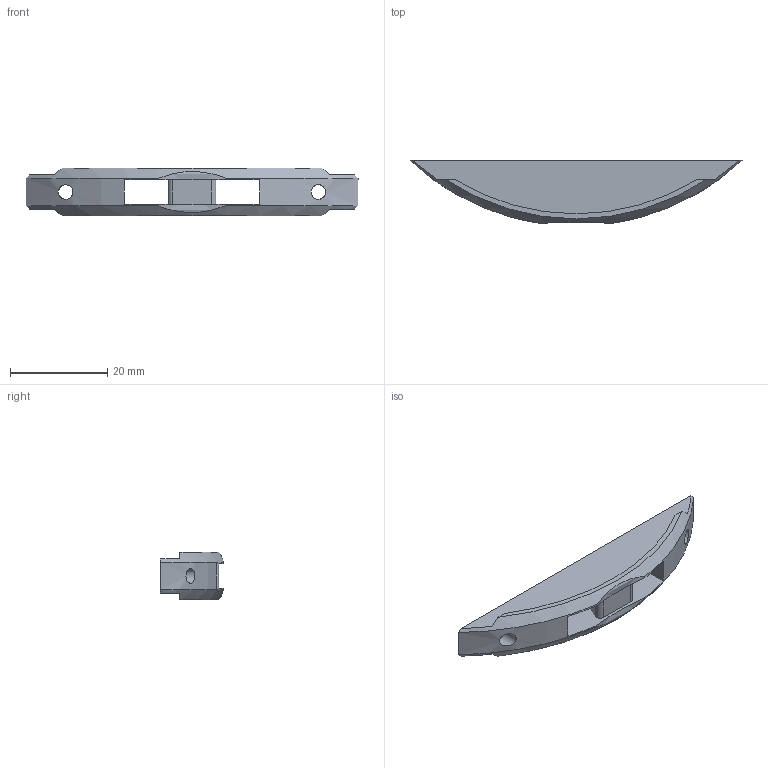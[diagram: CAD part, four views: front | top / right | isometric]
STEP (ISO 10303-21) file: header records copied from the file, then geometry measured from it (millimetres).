
FILE_DESCRIPTION(/* description */ (''),/* implementation_level */ '2;1');
FILE_NAME(/* name */ 'C:\Users\matthiask.LAMELLONET\Desktop\Öfftentliche Daten\CAD-Tenso P-14\Tenso_P-14_Verbinderhaelfte_ohne_Feder.stp',/* time_stamp */ '2022-06-30T15:12:10+02:00',/* author */ ('matthiask'),/* organization */ (''),/* preprocessor_version */ 'ST-DEVELOPER v18',/* originating_system */ 'Autodesk Inventor 2020',/* authorisation */ '');
FILE_SCHEMA (('AUTOMOTIVE_DESIGN { 1 0 10303 214 3 1 1 }'));
Length unit declared in the file: millimetre
Products named in the file (1): Tenso Schildteil
Bounding box: 68.34 x 13 x 9.8 mm (x, y, z)
Volume: 2784.8 mm3; surface area: 3348.6 mm2
Topology: 1 solids, 1 shells, 42 faces, 117 edges, 78 vertices
Faces by surface type: plane 28, cylinder 12, cone 2
Full cylindrical faces by diameter (mm): 3 x2, 6 x2
Entity records: 1480 total; most frequent: CARTESIAN_POINT 338, ORIENTED_EDGE 234, DIRECTION 225, EDGE_CURVE 117, VERTEX_POINT 78, AXIS2_PLACEMENT_3D 77, LINE 71, VECTOR 71
